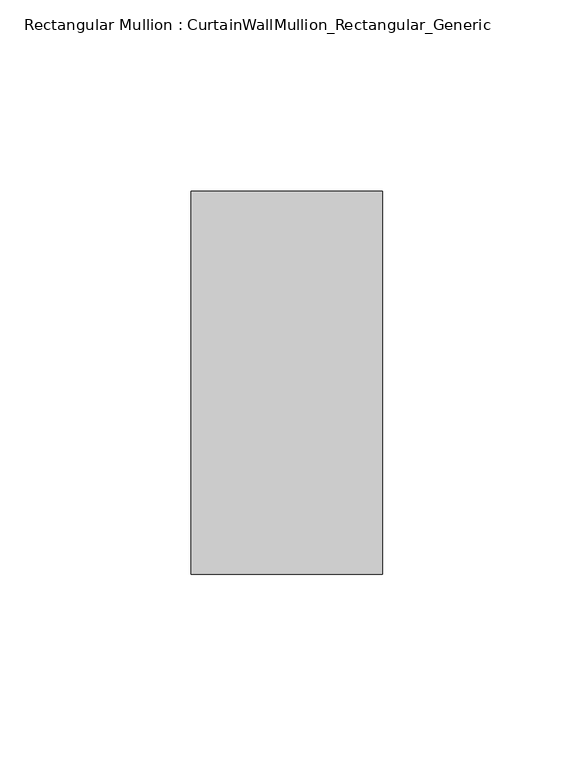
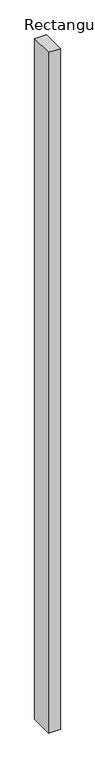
"""IFC4 building model written with IfcOpenShell, lengths in millimetres: member geometry, Rectangular Mullion : CurtainWallMullion_Rectangular_Generic."""

from ifc_helpers import new_model, si_unit, frame, origin, place, context, project, spatial, polyline, outline, extrude, source, transform, mapped, element, save


def rectangular_mullion_curtainwallmullion_rectangular_generic_8792b306(model_context):
    return source(origin(), model_context, "Body", "SweptSolid", [
        extrude(outline(polyline([(25.0, 50.0), (25.0, -50.0), (-25.0, -50.0), (-25.0, 50.0), (25.0, 50.0)])), frame((0.0, 0.0, -3025.0), z_axis=(0.0, 0.0, 1.0), x_axis=(1.0, 0.0, 0.0)), (0.0, 0.0, 1.0), 3025.0),
    ])


if __name__ == "__main__":
    model = new_model("IFC4")
    model_context = context("Model", 3, world=origin())
    ifc_project = project(units=[si_unit("LENGTHUNIT", "METRE", prefix="MILLI")], contexts=[model_context])
    site = spatial("IfcSite", under=ifc_project)
    building = spatial("IfcBuilding", under=site)
    placement = place(None, origin())
    rectangular_mullion_curtainwallmullion_rectangular_generic_shape = rectangular_mullion_curtainwallmullion_rectangular_generic_8792b306(model_context)
    element("IfcMember", 1, ObjectType="Rectangular Mullion : CurtainWallMullion_Rectangular_Generic", at=placement, inside=building, context=model_context, shape_type="MappedRepresentation", body=[
        mapped(rectangular_mullion_curtainwallmullion_rectangular_generic_shape, transform((0.0, 0.0, 0.0), x_axis=(1.0, 0.0, 0.0), y_axis=(0.0, 1.0, 0.0), z_axis=(0.0, 0.0, 1.0))),
    ])
    save(model, "model.ifc")
